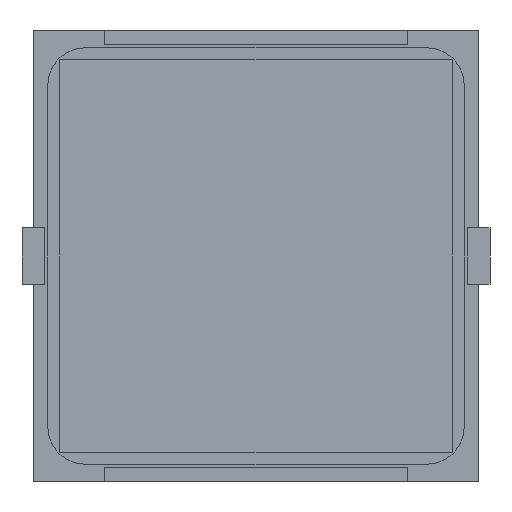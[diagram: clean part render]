
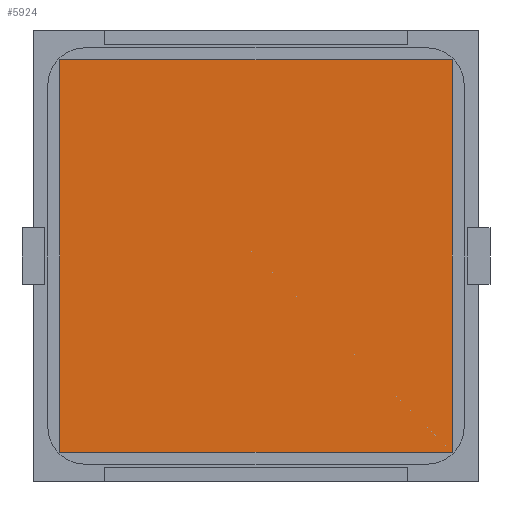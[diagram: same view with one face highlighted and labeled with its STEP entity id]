
A CAD part, front view. The second image highlights one B-rep face of the part: STEP entity #5924.
In plain terms, the highlighted planar face has unit normal (0, -1, 0).
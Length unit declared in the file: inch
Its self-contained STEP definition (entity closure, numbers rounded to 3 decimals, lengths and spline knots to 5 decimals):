
#84 = VERTEX_POINT ( 'NONE', #2116 ) ;
#261 = EDGE_CURVE ( 'NONE', #8239, #4541, #8964, .T. ) ;
#296 = DIRECTION ( 'NONE',  ( 0., 0., -1. ) ) ;
#367 = ORIENTED_EDGE ( 'NONE', *, *, #1488, .F. ) ;
#735 = CARTESIAN_POINT ( 'NONE',  ( -0.68898, -0.005, -0.68898 ) ) ;
#858 = ORIENTED_EDGE ( 'NONE', *, *, #1432, .F. ) ;
#1281 = ORIENTED_EDGE ( 'NONE', *, *, #3012, .F. ) ;
#1432 = EDGE_CURVE ( 'NONE', #4541, #7032, #5784, .T. ) ;
#1488 = EDGE_CURVE ( 'NONE', #84, #8239, #4696, .T. ) ;
#1492 = DIRECTION ( 'NONE',  ( -1., 0., 0. ) ) ;
#1530 = DIRECTION ( 'NONE',  ( 0., 0., 1. ) ) ;
#1981 = VECTOR ( 'NONE', #7690, 39.37008 ) ;
#2116 = CARTESIAN_POINT ( 'NONE',  ( -0.68898, -0.005, 0.68898 ) ) ;
#2904 = CARTESIAN_POINT ( 'NONE',  ( -0.68898, -0.005, 0.68898 ) ) ;
#3012 = EDGE_CURVE ( 'NONE', #7032, #84, #6426, .T. ) ;
#3082 = FACE_OUTER_BOUND ( 'NONE', #3260, .T. ) ;
#3250 = CARTESIAN_POINT ( 'NONE',  ( 0.68898, -0.005, -0.68898 ) ) ;
#3260 = EDGE_LOOP ( 'NONE', ( #1281, #858, #9065, #367 ) ) ;
#3264 = VECTOR ( 'NONE', #296, 39.37008 ) ;
#4218 = CARTESIAN_POINT ( 'NONE',  ( 0.68898, -0.005, 0.68898 ) ) ;
#4541 = VERTEX_POINT ( 'NONE', #3250 ) ;
#4696 = LINE ( 'NONE', #7066, #1981 ) ;
#5141 = PLANE ( 'NONE',  #7038 ) ;
#5784 = LINE ( 'NONE', #735, #8245 ) ;
#5924 = ADVANCED_FACE ( 'NONE', ( #3082 ), #5141, .F. ) ;
#6277 = CARTESIAN_POINT ( 'NONE',  ( -0.68898, -0.005, -0.68898 ) ) ;
#6426 = LINE ( 'NONE', #6277, #6658 ) ;
#6658 = VECTOR ( 'NONE', #1530, 39.37008 ) ;
#6666 = CARTESIAN_POINT ( 'NONE',  ( 0.68898, -0.005, -0.68898 ) ) ;
#7032 = VERTEX_POINT ( 'NONE', #8911 ) ;
#7038 = AXIS2_PLACEMENT_3D ( 'NONE', #2904, #8024, #8717 ) ;
#7066 = CARTESIAN_POINT ( 'NONE',  ( -0.68898, -0.005, 0.68898 ) ) ;
#7690 = DIRECTION ( 'NONE',  ( 1., 0., 0. ) ) ;
#8024 = DIRECTION ( 'NONE',  ( 0., 1., 0. ) ) ;
#8239 = VERTEX_POINT ( 'NONE', #4218 ) ;
#8245 = VECTOR ( 'NONE', #1492, 39.37008 ) ;
#8717 = DIRECTION ( 'NONE',  ( 0., 0., 1. ) ) ;
#8911 = CARTESIAN_POINT ( 'NONE',  ( -0.68898, -0.005, -0.68898 ) ) ;
#8964 = LINE ( 'NONE', #6666, #3264 ) ;
#9065 = ORIENTED_EDGE ( 'NONE', *, *, #261, .F. ) ;
